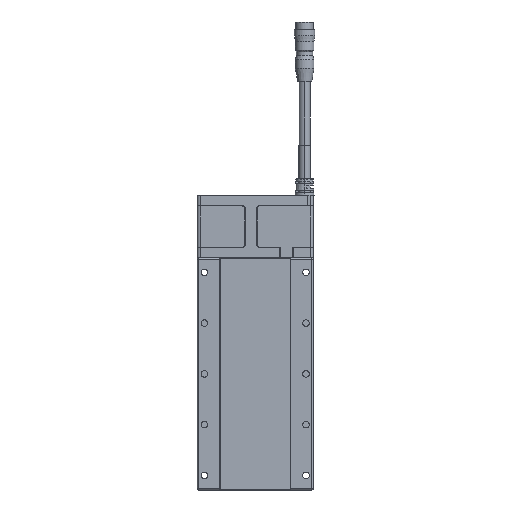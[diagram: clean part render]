
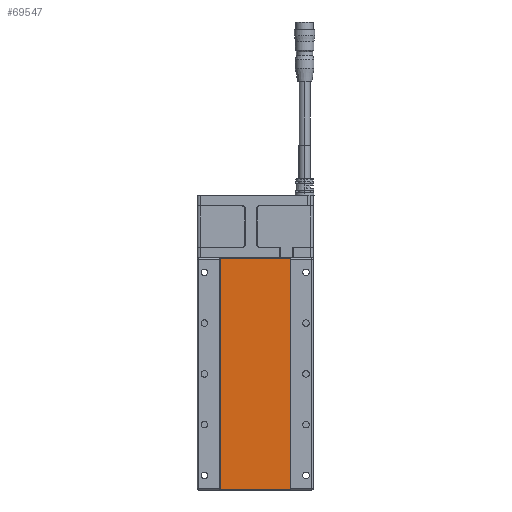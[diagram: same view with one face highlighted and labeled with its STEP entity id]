
A CAD part, front view. The second image highlights one B-rep face of the part: STEP entity #69547.
In plain terms, the highlighted planar face has unit normal (0, -1, 0).
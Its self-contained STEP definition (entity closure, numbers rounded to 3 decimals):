
#405 = DIRECTION ( 'NONE',  ( -1., 0., 0. ) ) ;
#3998 = CARTESIAN_POINT ( 'NONE',  ( -24.3, 0.5, 0.2 ) ) ;
#4548 = CARTESIAN_POINT ( 'NONE',  ( 24.3, 0.5, 0.2 ) ) ;
#5251 = EDGE_CURVE ( 'NONE', #84664, #41928, #57559, .T. ) ;
#6716 = ORIENTED_EDGE ( 'NONE', *, *, #5251, .T. ) ;
#11043 = VECTOR ( 'NONE', #405, 1000. ) ;
#11691 = ORIENTED_EDGE ( 'NONE', *, *, #86300, .T. ) ;
#16592 = CARTESIAN_POINT ( 'NONE',  ( 24.3, 0.5, 159.8 ) ) ;
#16677 = VECTOR ( 'NONE', #55985, 1000. ) ;
#17415 = CARTESIAN_POINT ( 'NONE',  ( -24.3, 0.5, 159.8 ) ) ;
#29654 = LINE ( 'NONE', #36550, #11043 ) ;
#29934 = VERTEX_POINT ( 'NONE', #41186 ) ;
#30113 = VECTOR ( 'NONE', #64475, 1000. ) ;
#33245 = DIRECTION ( 'NONE',  ( 0., 1., 0. ) ) ;
#35524 = EDGE_CURVE ( 'NONE', #40080, #84664, #87563, .T. ) ;
#36550 = CARTESIAN_POINT ( 'NONE',  ( -24.3, 0.5, 159.8 ) ) ;
#36994 = VECTOR ( 'NONE', #87021, 1000. ) ;
#40080 = VERTEX_POINT ( 'NONE', #55406 ) ;
#41186 = CARTESIAN_POINT ( 'NONE',  ( -24.3, 0.5, 159.8 ) ) ;
#41928 = VERTEX_POINT ( 'NONE', #16592 ) ;
#43166 = EDGE_CURVE ( 'NONE', #41928, #29934, #29654, .T. ) ;
#47603 = DIRECTION ( 'NONE',  ( -1., 0., 0. ) ) ;
#55406 = CARTESIAN_POINT ( 'NONE',  ( -24.3, 0.5, 0.2 ) ) ;
#55985 = DIRECTION ( 'NONE',  ( 1., 0., 0. ) ) ;
#57559 = LINE ( 'NONE', #95123, #30113 ) ;
#60783 = AXIS2_PLACEMENT_3D ( 'NONE', #17415, #33245, #47603 ) ;
#64475 = DIRECTION ( 'NONE',  ( 0., 0., 1. ) ) ;
#69547 = ADVANCED_FACE ( 'NONE', ( #77756 ), #71320, .F. ) ;
#71320 = PLANE ( 'NONE',  #60783 ) ;
#73700 = CARTESIAN_POINT ( 'NONE',  ( -24.3, 0.5, 0.2 ) ) ;
#75373 = ORIENTED_EDGE ( 'NONE', *, *, #35524, .T. ) ;
#77756 = FACE_OUTER_BOUND ( 'NONE', #95974, .T. ) ;
#78186 = LINE ( 'NONE', #73700, #36994 ) ;
#84664 = VERTEX_POINT ( 'NONE', #4548 ) ;
#86300 = EDGE_CURVE ( 'NONE', #29934, #40080, #78186, .T. ) ;
#87021 = DIRECTION ( 'NONE',  ( 0., 0., -1. ) ) ;
#87563 = LINE ( 'NONE', #3998, #16677 ) ;
#91652 = ORIENTED_EDGE ( 'NONE', *, *, #43166, .T. ) ;
#95123 = CARTESIAN_POINT ( 'NONE',  ( 24.3, 0.5, 0.2 ) ) ;
#95974 = EDGE_LOOP ( 'NONE', ( #11691, #75373, #6716, #91652 ) ) ;
